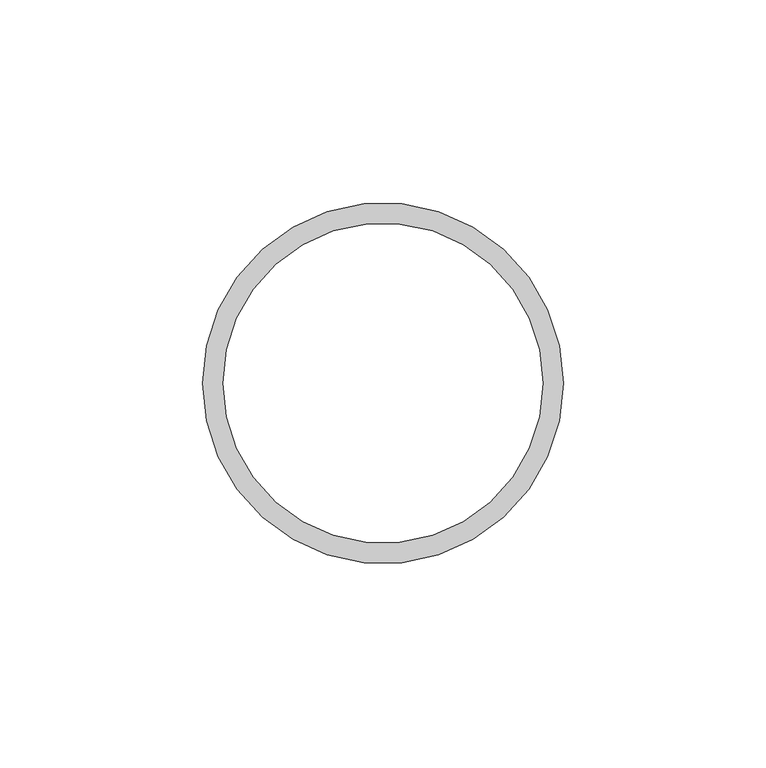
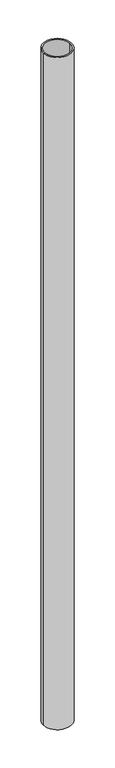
"""IFC4 building model written with IfcOpenShell, lengths in millimetres: column geometry, NLRS_28_SC_TLB_kolom buis_generiek_ISR : ø88.9x5 ."""

import ifcopenshell
import ifcopenshell.guid

model = None  # the IFC model being written
_history = None  # IfcOwnerHistory: only IFC2X3 demands one
_inside = {}  # id of a spatial element -> (the spatial element, [elements in it])
_under = {}  # id of a project, library or spatial element -> (it, [spatial elements below it])
_declared = {}  # id of a project -> (the project, [libraries it declares])
_typed = {}  # id of a type object -> (the type object, [elements of that type])
_made_of = {}  # id of a material, layer set ... -> (it, [elements and type objects made of it])


def new_model(schema):
    """Start an empty IFC model of exactly this schema.

    Asked for "IFC4X3", IfcOpenShell would pick the latest addendum, in which some entities
    have other attributes; the version numbers below select the first issue.
    IFC2X3 requires an IfcOwnerHistory on every rooted entity: one is made here for all.
    """
    global model, _history
    if schema == "IFC4X3":
        model = ifcopenshell.file(schema_version=(4, 3, 0, 0))
    else:
        model = ifcopenshell.file(schema=schema)
    _inside.clear()
    _under.clear()
    _declared.clear()
    _typed.clear()
    _made_of.clear()
    _history = None
    if model.schema == "IFC2X3":
        org = make("IfcOrganization", Name="unknown")
        user = make(
            "IfcPersonAndOrganization",
            ThePerson=make("IfcPerson", FamilyName="unknown"),
            TheOrganization=org,
        )
        app = make(
            "IfcApplication",
            ApplicationDeveloper=org,
            Version="unknown",
            ApplicationFullName="unknown",
            ApplicationIdentifier="unknown",
        )
        _history = make(
            "IfcOwnerHistory",
            OwningUser=user,
            OwningApplication=app,
            ChangeAction="ADDED",
            CreationDate=0,
        )
    return model


def make(cls, **values):
    """One entity of the class cls with the attributes given. An attribute that is None is left unset."""
    return model.create_entity(
        cls, **{name: value for name, value in values.items() if value is not None}
    )


def rooted(cls, **values):
    """An entity with a GlobalId (a new one), such as an element, a storey or a relation."""
    return make(cls, GlobalId=ifcopenshell.guid.new(), OwnerHistory=_history, **values)


def si_unit(unit_type, name, prefix=None):
    """IfcSIUnit, for example si_unit("LENGTHUNIT", "METRE", prefix="MILLI")."""
    return make("IfcSIUnit", UnitType=unit_type, Prefix=prefix, Name=name)


def assignment(units):
    """IfcUnitAssignment: the units of a project."""
    return None if units is None else make("IfcUnitAssignment", Units=units)


def point(xyz):
    """IfcCartesianPoint."""
    return None if xyz is None else make("IfcCartesianPoint", Coordinates=xyz)


def direction(xyz):
    """IfcDirection."""
    return None if xyz is None else make("IfcDirection", DirectionRatios=xyz)


def frame(location, z_axis=None, x_axis=None):
    """IfcAxis2Placement3D, a coordinate frame: its origin and axes. An axis left out is left unset."""
    return make(
        "IfcAxis2Placement3D",
        Location=point(location),
        Axis=direction(z_axis),
        RefDirection=direction(x_axis),
    )


def frame_2d(location, x_axis=None):
    """IfcAxis2Placement2D, a coordinate frame in the plane: its origin and x axis."""
    return make(
        "IfcAxis2Placement2D", Location=point(location), RefDirection=direction(x_axis)
    )


def origin():
    """The frame at (0, 0, 0) with its axes left unset."""
    return frame((0.0, 0.0, 0.0))


def origin_2d():
    """The frame at (0, 0) in the plane with its x axis left unset."""
    return frame_2d((0.0, 0.0))


def place(relative_to, where):
    """IfcLocalPlacement: puts the frame where relative to a parent placement (None: the world)."""
    return make(
        "IfcLocalPlacement", PlacementRelTo=relative_to, RelativePlacement=where
    )


def context(
    kind, dimensions, precision=None, world=None, true_north=None, identifier=None
):
    """IfcGeometricRepresentationContext, for example the 3D "Model" context."""
    return make(
        "IfcGeometricRepresentationContext",
        ContextIdentifier=identifier,
        ContextType=kind,
        CoordinateSpaceDimension=dimensions,
        Precision=precision,
        WorldCoordinateSystem=world,
        TrueNorth=true_north,
    )


def project(units=None, contexts=None):
    """IfcProject with its units and contexts."""
    return rooted(
        "IfcProject",
        Name="project",
        RepresentationContexts=contexts,
        UnitsInContext=assignment(units),
    )


def spatial(cls, under=None, at=None, **own):
    """A site, building, storey or space (cls), placed at a placement, below another one or the project."""
    s = rooted(cls, ObjectPlacement=at, **own)
    if under is not None:
        _under.setdefault(under.id(), (under, []))[1].append(s)
    return s


def circle_curve(where, radius):
    """IfcCircle in the frame where."""
    return make("IfcCircle", Position=where, Radius=radius)


def trimmed(basis, trim1, trim2, sense, master):
    """IfcTrimmedCurve: the piece of a basis curve between two trims."""
    return make(
        "IfcTrimmedCurve",
        BasisCurve=basis,
        Trim1=trim1,
        Trim2=trim2,
        SenseAgreement=sense,
        MasterRepresentation=master,
    )


def segment(curve, same_sense, transition):
    """IfcCompositeCurveSegment."""
    return make(
        "IfcCompositeCurveSegment",
        Transition=transition,
        SameSense=same_sense,
        ParentCurve=curve,
    )


def composite_curve(segments, self_intersect=None):
    """IfcCompositeCurve: segments joined end to end."""
    return make("IfcCompositeCurve", Segments=segments, SelfIntersect=self_intersect)


def outline(outer, holes=None, kind="AREA"):
    """IfcArbitraryClosedProfileDef: a profile drawn as a closed curve; with holes, ...WithVoids."""
    if holes is None:
        return make("IfcArbitraryClosedProfileDef", ProfileType=kind, OuterCurve=outer)
    return make(
        "IfcArbitraryProfileDefWithVoids",
        ProfileType=kind,
        OuterCurve=outer,
        InnerCurves=holes,
    )


def extrude(swept, where, along, depth):
    """IfcExtrudedAreaSolid: the profile swept, set in the frame where, extruded along a direction by depth."""
    return make(
        "IfcExtrudedAreaSolid",
        SweptArea=swept,
        Position=where,
        ExtrudedDirection=direction(along),
        Depth=depth,
    )


def shape(context_of_items, identifier, shape_type, items):
    """IfcShapeRepresentation: the items that make up one representation, for example the "Body"."""
    return make(
        "IfcShapeRepresentation",
        ContextOfItems=context_of_items,
        RepresentationIdentifier=identifier,
        RepresentationType=shape_type,
        Items=items,
    )


def source(mapping_origin, context_of_items, identifier, shape_type, items):
    """IfcRepresentationMap: a shape defined once, which mapped items show again and again."""
    return make(
        "IfcRepresentationMap",
        MappingOrigin=mapping_origin,
        MappedRepresentation=shape(context_of_items, identifier, shape_type, items),
    )


def transform(
    local_origin,
    x_axis=None,
    y_axis=None,
    z_axis=None,
    scale=None,
    scale2=None,
    scale3=None,
    uniform=True,
):
    """IfcCartesianTransformationOperator3D, or its non-uniform kind. x_axis, y_axis, z_axis: its Axis1, 2, 3."""
    if uniform:
        return make(
            "IfcCartesianTransformationOperator3D",
            Axis1=direction(x_axis),
            Axis2=direction(y_axis),
            LocalOrigin=point(local_origin),
            Scale=scale,
            Axis3=direction(z_axis),
        )
    return make(
        "IfcCartesianTransformationOperator3DnonUniform",
        Axis1=direction(x_axis),
        Axis2=direction(y_axis),
        LocalOrigin=point(local_origin),
        Scale=scale,
        Axis3=direction(z_axis),
        Scale2=scale2,
        Scale3=scale3,
    )


def mapped(mapping_source, mapping_target):
    """IfcMappedItem: shows the shape of a source again, moved by a transform."""
    return make(
        "IfcMappedItem", MappingSource=mapping_source, MappingTarget=mapping_target
    )


def made_of(thing, what):
    """Note that an element or type object is made of a material, layer set ...; save() writes the relation."""
    if what is not None:
        _made_of.setdefault(what.id(), (what, []))[1].append(thing)
    return thing


def element(
    cls,
    number,
    at=None,
    inside=None,
    cuts=None,
    type_object=None,
    material=None,
    context=None,
    identifier="Body",
    shape_type=None,
    held_by="IfcProductDefinitionShape",
    body=None,
    shapes=None,
    **own,
):
    """One element of the class cls, such as IfcWall. Its Tag is "e" and its number.

    at: its placement. inside: the storey or other place that contains it. cuts: it is an
    opening in that element (IfcRelVoidsElement). A single representation is given by context,
    identifier, shape_type and body (its items); several are given by shapes. held_by: the class
    of the entity that holds the representations. save() writes the other relations.
    """
    e = rooted(cls, Tag="e%d" % number, ObjectPlacement=at, **own)
    if body is not None:
        shapes = [shape(context, identifier, shape_type, body)]
    if shapes is not None:
        e.Representation = make(held_by, Representations=shapes)
    if inside is not None:
        _inside.setdefault(inside.id(), (inside, []))[1].append(e)
    if cuts is not None:
        rooted(
            "IfcRelVoidsElement", RelatingBuildingElement=cuts, RelatedOpeningElement=e
        )
    if type_object is not None:
        _typed.setdefault(type_object.id(), (type_object, []))[1].append(e)
    return made_of(e, material)


def aggregate(whole, parts):
    """IfcRelAggregates: a whole, such as a stair, and the parts it consists of."""
    return rooted("IfcRelAggregates", RelatingObject=whole, RelatedObjects=parts)


def save(model, path):
    """Write the relations noted so far, then the file.

    IfcRelAggregates (storeys below a building ...), IfcRelContainedInSpatialStructure (elements
    in a storey), IfcRelDefinesByType, IfcRelAssociatesMaterial and IfcRelDeclares: one each for
    every whole, place, type object, material and project.
    """
    for whole, parts in _under.values():
        aggregate(whole, parts)
    for where, things in _inside.values():
        rooted(
            "IfcRelContainedInSpatialStructure",
            RelatedElements=things,
            RelatingStructure=where,
        )
    for kind, things in _typed.values():
        rooted("IfcRelDefinesByType", RelatedObjects=things, RelatingType=kind)
    for what, things in _made_of.values():
        rooted("IfcRelAssociatesMaterial", RelatedObjects=things, RelatingMaterial=what)
    for by, libraries in _declared.values():
        rooted("IfcRelDeclares", RelatingContext=by, RelatedDefinitions=libraries)
    model.write(path)


def column_163e7ca7(model_context):
    return source(origin(), model_context, "Body", "SweptSolid", [
        extrude(outline(composite_curve([segment(trimmed(circle_curve(origin_2d(), 44.45), [point((44.45, 0.0))], [point((-44.45, 0.0))], False, "CARTESIAN"), True, "CONTINUOUS"), segment(trimmed(circle_curve(origin_2d(), 44.45), [point((-44.45, 0.0))], [point((44.45, 0.0))], False, "CARTESIAN"), True, "CONTINUOUS")], self_intersect=False), holes=[composite_curve([segment(trimmed(circle_curve(origin_2d(), 39.45), [point((39.45, 0.0))], [point((-39.45, 0.0))], True, "CARTESIAN"), True, "CONTINUOUS"), segment(trimmed(circle_curve(origin_2d(), 39.45), [point((-39.45, 0.0))], [point((39.45, 0.0))], True, "CARTESIAN"), True, "CONTINUOUS")], self_intersect=False)]), frame((0.0, 0.0, 5050.0), z_axis=(0.0, 0.0, 1.0), x_axis=(1.0, 0.0, 0.0)), (0.0, 0.0, 1.0), 2200.0),
    ])


if __name__ == "__main__":
    model = new_model("IFC4")
    model_context = context("Model", 3, world=origin())
    ifc_project = project(units=[si_unit("LENGTHUNIT", "METRE", prefix="MILLI")], contexts=[model_context])
    site = spatial("IfcSite", under=ifc_project)
    building = spatial("IfcBuilding", under=site)
    placement = place(None, origin())
    column_shape = column_163e7ca7(model_context)
    element("IfcColumn", 1, ObjectType="NLRS_28_SC_TLB_kolom buis_generiek_ISR : ø88.9x5 ", at=placement, inside=building, context=model_context, shape_type="MappedRepresentation", body=[
        mapped(column_shape, transform((0.0, 0.0, 0.0), x_axis=(1.0, 0.0, 0.0), y_axis=(0.0, 1.0, 0.0), z_axis=(0.0, 0.0, 1.0))),
    ])
    save(model, "model.ifc")
